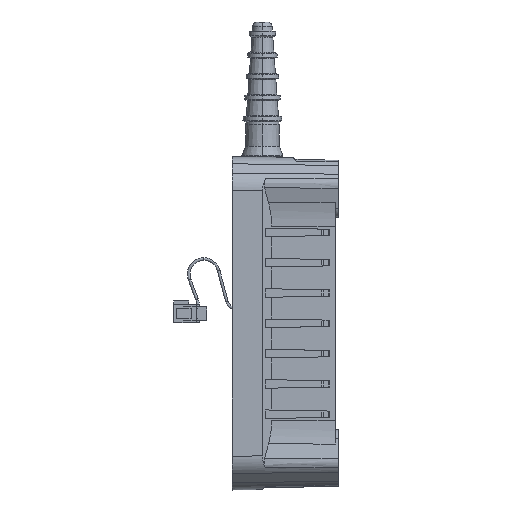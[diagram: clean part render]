
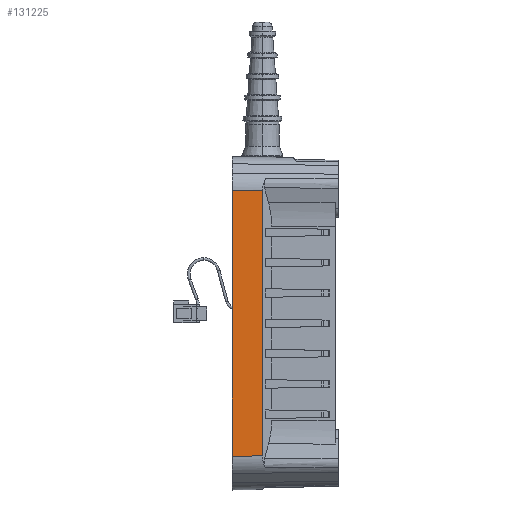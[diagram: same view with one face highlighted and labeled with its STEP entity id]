
A CAD part, left-side view. The second image highlights one B-rep face of the part: STEP entity #131225.
In plain terms, the highlighted planar face has unit normal (-1, -0.018, 0).
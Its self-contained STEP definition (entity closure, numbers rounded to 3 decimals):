
#57 = DIRECTION ( 'NONE',  ( 0., 0., 1. ) ) ;
#2154 = CARTESIAN_POINT ( 'NONE',  ( -75., 0., 47.142 ) ) ;
#5399 = CARTESIAN_POINT ( 'NONE',  ( -74.825, -10., -43.757 ) ) ;
#15213 = VECTOR ( 'NONE', #165774, 1000. ) ;
#15536 = VECTOR ( 'NONE', #57, 1000. ) ;
#21280 = AXIS2_PLACEMENT_3D ( 'NONE', #2154, #28347, #112742 ) ;
#23721 = FACE_OUTER_BOUND ( 'NONE', #27870, .T. ) ;
#27870 = EDGE_LOOP ( 'NONE', ( #37068, #95800, #32233, #59863 ) ) ;
#28347 = DIRECTION ( 'NONE',  ( -1., -0.017, 0. ) ) ;
#30761 = LINE ( 'NONE', #78508, #59046 ) ;
#32233 = ORIENTED_EDGE ( 'NONE', *, *, #34067, .T. ) ;
#32804 = VERTEX_POINT ( 'NONE', #5399 ) ;
#34067 = EDGE_CURVE ( 'NONE', #32804, #152573, #70031, .T. ) ;
#37068 = ORIENTED_EDGE ( 'NONE', *, *, #85254, .F. ) ;
#59046 = VECTOR ( 'NONE', #105262, 1000. ) ;
#59863 = ORIENTED_EDGE ( 'NONE', *, *, #133711, .T. ) ;
#67363 = CARTESIAN_POINT ( 'NONE',  ( -74.989, -0.657, -43.824 ) ) ;
#70031 = LINE ( 'NONE', #127096, #15536 ) ;
#78508 = CARTESIAN_POINT ( 'NONE',  ( -75., 0., 47.142 ) ) ;
#85254 = EDGE_CURVE ( 'NONE', #85534, #94587, #30761, .T. ) ;
#85534 = VERTEX_POINT ( 'NONE', #157899 ) ;
#86688 = EDGE_CURVE ( 'NONE', #85534, #32804, #160901, .T. ) ;
#94587 = VERTEX_POINT ( 'NONE', #179243 ) ;
#95800 = ORIENTED_EDGE ( 'NONE', *, *, #86688, .T. ) ;
#103274 = CARTESIAN_POINT ( 'NONE',  ( -74.825, -10., 43.757 ) ) ;
#105262 = DIRECTION ( 'NONE',  ( 0., 0., 1. ) ) ;
#112742 = DIRECTION ( 'NONE',  ( 0.017, -1., 0. ) ) ;
#116644 = DIRECTION ( 'NONE',  ( -0.017, 1., 0.007 ) ) ;
#122199 = LINE ( 'NONE', #158652, #124464 ) ;
#124464 = VECTOR ( 'NONE', #116644, 1000. ) ;
#127096 = CARTESIAN_POINT ( 'NONE',  ( -74.825, -10., 47.142 ) ) ;
#131225 = ADVANCED_FACE ( 'NONE', ( #23721 ), #139625, .T. ) ;
#133711 = EDGE_CURVE ( 'NONE', #152573, #94587, #122199, .T. ) ;
#139625 = PLANE ( 'NONE',  #21280 ) ;
#152573 = VERTEX_POINT ( 'NONE', #103274 ) ;
#157899 = CARTESIAN_POINT ( 'NONE',  ( -75., 0., -43.829 ) ) ;
#158652 = CARTESIAN_POINT ( 'NONE',  ( -75., 0.024, 43.829 ) ) ;
#160901 = LINE ( 'NONE', #67363, #15213 ) ;
#165774 = DIRECTION ( 'NONE',  ( 0.017, -1., 0.007 ) ) ;
#179243 = CARTESIAN_POINT ( 'NONE',  ( -75., 0., 43.829 ) ) ;
